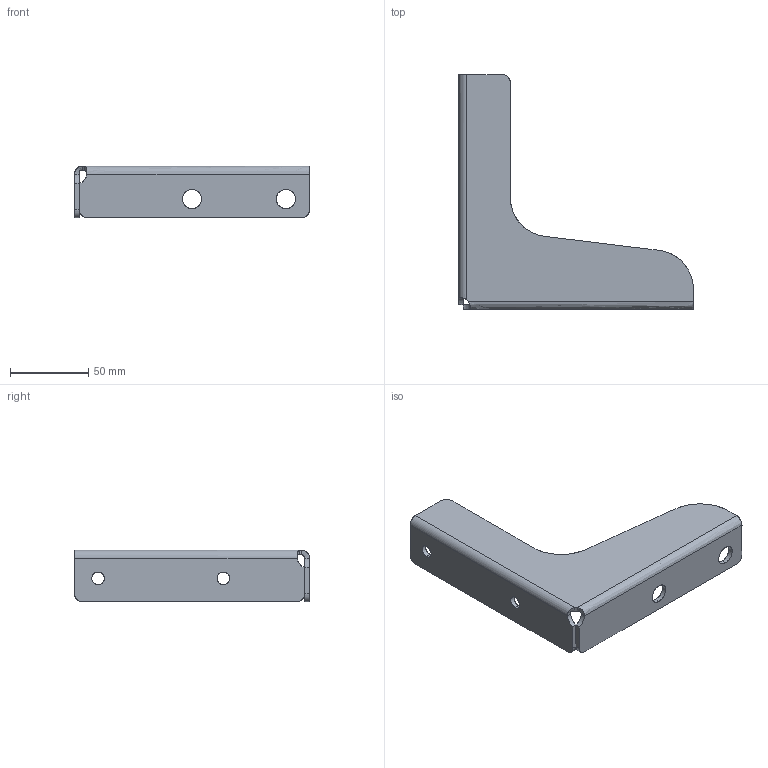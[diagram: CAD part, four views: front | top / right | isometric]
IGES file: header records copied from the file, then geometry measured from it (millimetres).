
Start section: SolidWorks IGES file using analytic representation for surfaces
Global section: file name: C:\Users\sr-d12\Desktop\20230331Rev3\Œ³DATA\J3ASL.IGS; native system: SolidWorks 2019; preprocessor: SolidWorks 2019; author: nakano; date: 230331.141956; units: millimetre
Bounding box: 150 x 150 x 33 mm (x, y, z)
Surface area: 38169.9 mm2 (no closed solid volume)
Topology: 0 solids, 0 shells, 41 faces, 652 edges, 652 vertices
Faces by surface type: revolution 21, bspline 20
